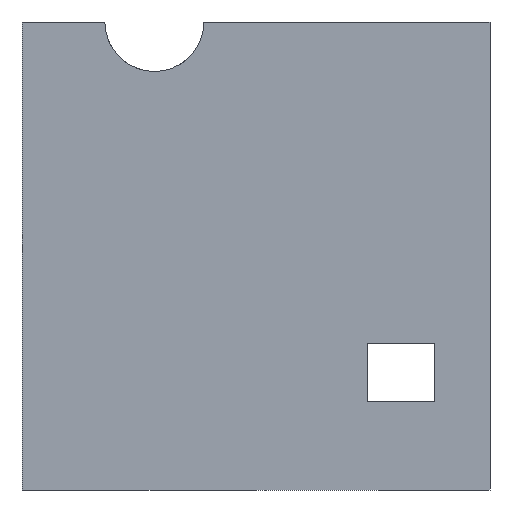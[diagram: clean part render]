
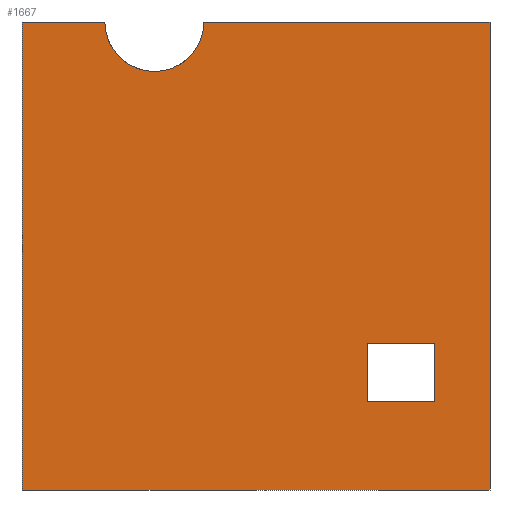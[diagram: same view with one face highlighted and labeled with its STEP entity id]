
A CAD part, left-side view. The second image highlights one B-rep face of the part: STEP entity #1667.
In plain terms, the highlighted planar face has unit normal (-1, 0, 0).
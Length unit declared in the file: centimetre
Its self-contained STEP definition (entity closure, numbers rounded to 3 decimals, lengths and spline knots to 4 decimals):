
#49 = ORIENTED_EDGE ( 'NONE', *, *, #571, .T. ) ;
#52 = DIRECTION ( 'NONE',  ( 0., -1., 0. ) ) ;
#54 = CARTESIAN_POINT ( 'NONE',  ( 0., 1000., 0. ) ) ;
#65 = VECTOR ( 'NONE', #754, 100. ) ;
#100 = CARTESIAN_POINT ( 'NONE',  ( 0., 717.1296, 894.1955 ) ) ;
#122 = VERTEX_POINT ( 'NONE', #372 ) ;
#124 = CARTESIAN_POINT ( 'NONE',  ( 0., 0., 1000. ) ) ;
#167 = EDGE_CURVE ( 'NONE', #1849, #1122, #1340, .T. ) ;
#177 = VERTEX_POINT ( 'NONE', #1193 ) ;
#185 = VERTEX_POINT ( 'NONE', #411 ) ;
#203 = ORIENTED_EDGE ( 'NONE', *, *, #1256, .T. ) ;
#246 = DIRECTION ( 'NONE',  ( 0., 0., -1. ) ) ;
#258 = VECTOR ( 'NONE', #808, 100. ) ;
#310 = DIRECTION ( 'NONE',  ( 0., 0., -1. ) ) ;
#312 = ORIENTED_EDGE ( 'NONE', *, *, #759, .F. ) ;
#316 = LINE ( 'NONE', #124, #1050 ) ;
#318 = CARTESIAN_POINT ( 'NONE',  ( 0., 1000., 1000. ) ) ;
#328 = CIRCLE ( 'NONE', #1835, 105.8045 ) ;
#334 = LINE ( 'NONE', #54, #997 ) ;
#367 = CARTESIAN_POINT ( 'NONE',  ( 0., 262.4276, 313.4334 ) ) ;
#372 = CARTESIAN_POINT ( 'NONE',  ( 0., 822.9341, 1000. ) ) ;
#382 = CARTESIAN_POINT ( 'NONE',  ( 0., 118.0937, 313.4334 ) ) ;
#395 = VECTOR ( 'NONE', #409, 100. ) ;
#396 = CARTESIAN_POINT ( 'NONE',  ( 0., 717.1296, 1000. ) ) ;
#401 = EDGE_CURVE ( 'NONE', #1803, #1849, #964, .T. ) ;
#409 = DIRECTION ( 'NONE',  ( 0., 0., 1. ) ) ;
#411 = CARTESIAN_POINT ( 'NONE',  ( 0., 1000., 1000. ) ) ;
#416 = CARTESIAN_POINT ( 'NONE',  ( 0., 611.3252, 1000. ) ) ;
#425 = CARTESIAN_POINT ( 'NONE',  ( 0., 118.0937, 188.512 ) ) ;
#494 = CARTESIAN_POINT ( 'NONE',  ( 0., 1000., 1000. ) ) ;
#499 = ORIENTED_EDGE ( 'NONE', *, *, #976, .F. ) ;
#526 = AXIS2_PLACEMENT_3D ( 'NONE', #1652, #1362, #310 ) ;
#536 = VERTEX_POINT ( 'NONE', #638 ) ;
#571 = EDGE_CURVE ( 'NONE', #1378, #122, #1508, .T. ) ;
#598 = CARTESIAN_POINT ( 'NONE',  ( 0., 0., 0. ) ) ;
#629 = DIRECTION ( 'NONE',  ( 0., 0., -1. ) ) ;
#638 = CARTESIAN_POINT ( 'NONE',  ( 0., 1000., 0. ) ) ;
#651 = VECTOR ( 'NONE', #246, 100. ) ;
#684 = VECTOR ( 'NONE', #52, 100. ) ;
#699 = CARTESIAN_POINT ( 'NONE',  ( 0., 262.4276, 188.512 ) ) ;
#720 = ORIENTED_EDGE ( 'NONE', *, *, #1737, .T. ) ;
#754 = DIRECTION ( 'NONE',  ( 0., -1., 0. ) ) ;
#759 = EDGE_CURVE ( 'NONE', #1429, #1579, #316, .T. ) ;
#808 = DIRECTION ( 'NONE',  ( 0., -1., 0. ) ) ;
#813 = ORIENTED_EDGE ( 'NONE', *, *, #401, .T. ) ;
#894 = EDGE_LOOP ( 'NONE', ( #1522, #203, #919, #813 ) ) ;
#919 = ORIENTED_EDGE ( 'NONE', *, *, #1491, .T. ) ;
#920 = DIRECTION ( 'NONE',  ( 0., 0., -1. ) ) ;
#923 = VECTOR ( 'NONE', #925, 100. ) ;
#925 = DIRECTION ( 'NONE',  ( 0., 0., -1. ) ) ;
#964 = LINE ( 'NONE', #382, #684 ) ;
#976 = EDGE_CURVE ( 'NONE', #185, #122, #1726, .T. ) ;
#993 = VECTOR ( 'NONE', #1014, 100. ) ;
#997 = VECTOR ( 'NONE', #1571, 100. ) ;
#1014 = DIRECTION ( 'NONE',  ( 0., 1., 0. ) ) ;
#1033 = FACE_OUTER_BOUND ( 'NONE', #1457, .T. ) ;
#1050 = VECTOR ( 'NONE', #920, 100. ) ;
#1055 = CARTESIAN_POINT ( 'NONE',  ( 0., 118.0937, 188.512 ) ) ;
#1122 = VERTEX_POINT ( 'NONE', #1720 ) ;
#1156 = EDGE_CURVE ( 'NONE', #185, #536, #1695, .T. ) ;
#1182 = LINE ( 'NONE', #1055, #993 ) ;
#1193 = CARTESIAN_POINT ( 'NONE',  ( 0., 262.4276, 188.512 ) ) ;
#1222 = DIRECTION ( 'NONE',  ( 1., 0., 0. ) ) ;
#1224 = FACE_BOUND ( 'NONE', #894, .T. ) ;
#1256 = EDGE_CURVE ( 'NONE', #1122, #177, #1182, .T. ) ;
#1340 = LINE ( 'NONE', #425, #651 ) ;
#1362 = DIRECTION ( 'NONE',  ( 1., 0., 0. ) ) ;
#1370 = ORIENTED_EDGE ( 'NONE', *, *, #1881, .T. ) ;
#1376 = CARTESIAN_POINT ( 'NONE',  ( 0., 717.1296, 1000. ) ) ;
#1378 = VERTEX_POINT ( 'NONE', #100 ) ;
#1429 = VERTEX_POINT ( 'NONE', #1945 ) ;
#1431 = VERTEX_POINT ( 'NONE', #416 ) ;
#1450 = ORIENTED_EDGE ( 'NONE', *, *, #1156, .T. ) ;
#1457 = EDGE_LOOP ( 'NONE', ( #1958, #1370, #49, #499, #1450, #720, #312 ) ) ;
#1478 = LINE ( 'NONE', #699, #395 ) ;
#1491 = EDGE_CURVE ( 'NONE', #177, #1803, #1478, .T. ) ;
#1508 = CIRCLE ( 'NONE', #1874, 105.8045 ) ;
#1522 = ORIENTED_EDGE ( 'NONE', *, *, #167, .T. ) ;
#1534 = LINE ( 'NONE', #1656, #65 ) ;
#1559 = EDGE_CURVE ( 'NONE', #1431, #1429, #1534, .T. ) ;
#1571 = DIRECTION ( 'NONE',  ( 0., -1., 0. ) ) ;
#1579 = VERTEX_POINT ( 'NONE', #598 ) ;
#1652 = CARTESIAN_POINT ( 'NONE',  ( 0., 1000., 1000. ) ) ;
#1656 = CARTESIAN_POINT ( 'NONE',  ( 0., 1000., 1000. ) ) ;
#1657 = DIRECTION ( 'NONE',  ( 1., 0., 0. ) ) ;
#1667 = ADVANCED_FACE ( 'NONE', ( #1224, #1033 ), #1677, .F. ) ;
#1677 = PLANE ( 'NONE',  #526 ) ;
#1695 = LINE ( 'NONE', #318, #923 ) ;
#1720 = CARTESIAN_POINT ( 'NONE',  ( 0., 118.0937, 188.512 ) ) ;
#1726 = LINE ( 'NONE', #494, #258 ) ;
#1737 = EDGE_CURVE ( 'NONE', #536, #1579, #334, .T. ) ;
#1763 = CARTESIAN_POINT ( 'NONE',  ( 0., 118.0937, 313.4334 ) ) ;
#1778 = DIRECTION ( 'NONE',  ( 0., 0., -1. ) ) ;
#1803 = VERTEX_POINT ( 'NONE', #367 ) ;
#1835 = AXIS2_PLACEMENT_3D ( 'NONE', #396, #1657, #1778 ) ;
#1849 = VERTEX_POINT ( 'NONE', #1763 ) ;
#1874 = AXIS2_PLACEMENT_3D ( 'NONE', #1376, #1222, #629 ) ;
#1881 = EDGE_CURVE ( 'NONE', #1431, #1378, #328, .T. ) ;
#1945 = CARTESIAN_POINT ( 'NONE',  ( 0., 0., 1000. ) ) ;
#1958 = ORIENTED_EDGE ( 'NONE', *, *, #1559, .F. ) ;
